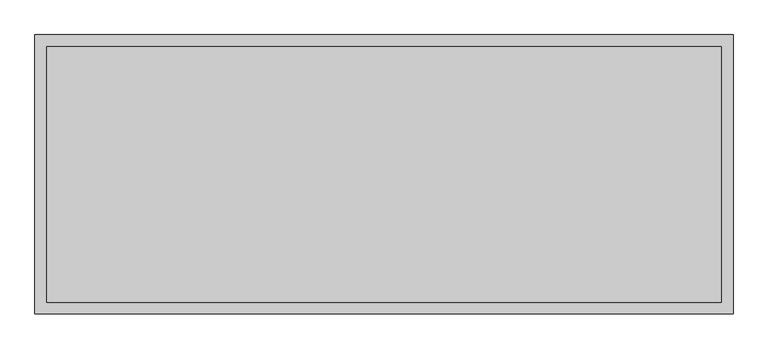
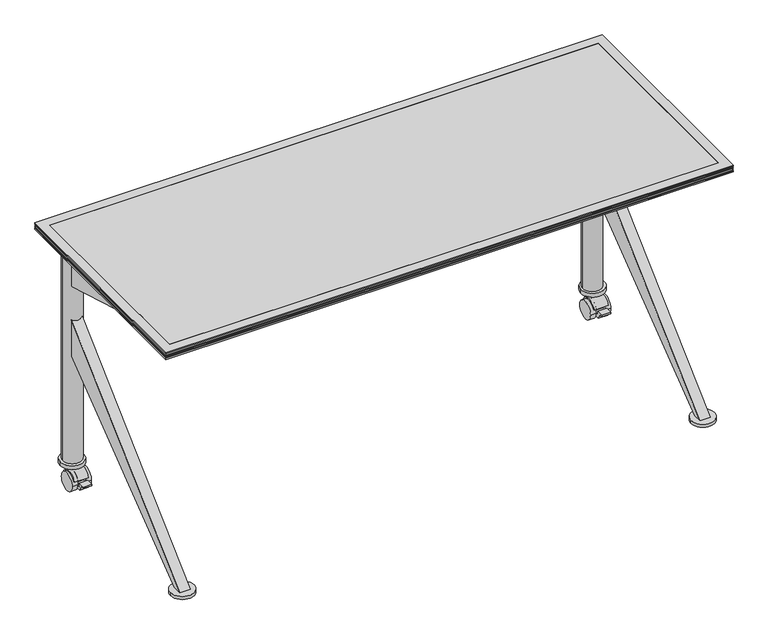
"""IFC4 building model written with IfcOpenShell, lengths in millimetres: furniture geometry, Coalesse_AM_Table_Conference_Ballet_Rectangular_KBase : Folding - 60L x 24W."""

from ifc_helpers import new_model, si_unit, point, frame, frame_2d, origin, origin_with_axes, place, context, project, spatial, polyline, circle_curve, trimmed, segment, composite_curve, outline, extrude, faceted_brep, source, transform, mapped, element, save


def furniture_9438e511(model_context):
    return source(origin(), model_context, "Body", "SolidModel", [
        extrude(outline(composite_curve([segment(trimmed(circle_curve(frame_2d((-699.4092495, -273.05)), 25.4), [point((-724.8092495, -273.05))], [point((-674.0092495, -273.05))], False, "CARTESIAN"), True, "CONTINUOUS"), segment(trimmed(circle_curve(frame_2d((-699.4092495, -273.05)), 25.4), [point((-674.0092495, -273.05))], [point((-724.8092495, -273.05))], False, "CARTESIAN"), True, "CONTINUOUS")], self_intersect=False)), origin_with_axes(), (0.0, 0.0, 1.0), 4.2936144),
        extrude(outline(composite_curve([segment(trimmed(circle_curve(frame_2d((698.6624629, -273.05)), 25.4), [point((673.2624629, -273.05))], [point((724.0624629, -273.05))], False, "CARTESIAN"), True, "CONTINUOUS"), segment(trimmed(circle_curve(frame_2d((698.6624629, -273.05)), 25.4), [point((724.0624629, -273.05))], [point((673.2624629, -273.05))], False, "CARTESIAN"), True, "CONTINUOUS")], self_intersect=False)), origin_with_axes(), (0.0, 0.0, 1.0), 4.2936144),
        extrude(outline(composite_curve([segment(polyline([(249.3604217, 14.7931869), (246.4491351, 16.4051117)]), True, "CONTINUOUS"), segment(trimmed(circle_curve(frame_2d((223.0336856, 24.9907393)), 24.9398531), [point((246.4491351, 16.4051117))], [point((200.5459564, 35.7749086))], True, "CARTESIAN"), True, "CONTINUOUS"), segment(polyline([(200.5459564, 35.7749086), (197.1203751, 36.8601197)]), True, "CONTINUOUS"), segment(trimmed(circle_curve(frame_2d((222.3646326, 26.7032164)), 27.2109394), [point((197.1203751, 36.8601197))], [point((233.9847122, 51.3082762))], False, "CARTESIAN"), True, "CONTINUOUS"), segment(trimmed(circle_curve(frame_2d((223.9211664, 25.8930561)), 27.3351124), [point((233.9847122, 51.3082762))], [point((249.3604217, 35.8956886))], False, "CARTESIAN"), True, "CONTINUOUS"), segment(trimmed(circle_curve(frame_2d((222.5258895, 25.3444377)), 28.8343721), [point((249.3604217, 35.8956886))], [point((249.3604217, 14.7931869))], False, "CARTESIAN"), True, "CONTINUOUS")], self_intersect=False)), frame((678.6279182, 0.0, 0.0), z_axis=(1.0, 0.0, 0.0), x_axis=(0.0, 1.0, 0.0)), (0.0, 0.0, 1.0), 37.985857),
        extrude(outline(composite_curve([segment(trimmed(circle_curve(frame_2d((223.0336856, 24.9907393)), 24.9398531), [point((198.0938325, 24.9907393))], [point((247.9735388, 24.9907393))], False, "CARTESIAN"), True, "CONTINUOUS"), segment(trimmed(circle_curve(frame_2d((223.0336856, 24.9907393)), 24.9398531), [point((247.9735388, 24.9907393))], [point((198.0938325, 24.9907393))], False, "CARTESIAN"), True, "CONTINUOUS")], self_intersect=False)), frame((669.4801992, 0.0, 0.0), z_axis=(1.0, 0.0, 0.0), x_axis=(0.0, 1.0, 0.0)), (0.0, 0.0, 1.0), 14.732),
        extrude(outline(composite_curve([segment(polyline([(233.9847122, 63.5225277), (249.3604217, 63.5225277), (249.3604217, 35.8956886)]), True, "CONTINUOUS"), segment(trimmed(circle_curve(frame_2d((222.5258895, 25.3444377)), 28.8343721), [point((249.3604217, 35.8956886))], [point((249.3604217, 14.7931869))], False, "CARTESIAN"), True, "CONTINUOUS"), segment(polyline([(249.3604217, 14.7931869), (235.895607, 22.2484025), (232.8197341, 16.6930892)]), True, "CONTINUOUS"), segment(trimmed(circle_curve(frame_2d((223.127305, 25.0010719)), 12.7658043), [point((232.8197341, 16.6930892))], [point((212.8624455, 17.4117096))], False, "CARTESIAN"), True, "CONTINUOUS"), segment(polyline([(212.8624455, 17.4117096), (187.093848, 17.4117096), (178.1223524, 31.7691038), (171.3969156, 31.7691038), (171.3969156, 35.1210973), (190.4469156, 35.1210973), (190.4469156, 25.0010719), (209.7362269, 25.0010719), (211.9998286, 32.1463658), (197.1203751, 36.8601197)]), True, "CONTINUOUS"), segment(trimmed(circle_curve(frame_2d((222.3646326, 26.7032164)), 27.2109394), [point((197.1203751, 36.8601197))], [point((233.9847122, 51.3082762))], False, "CARTESIAN"), True, "CONTINUOUS"), segment(polyline([(233.9847122, 51.3082762), (233.9847122, 63.5225277)]), True, "CONTINUOUS")], self_intersect=False)), frame((684.2121992, 0.0, 0.0), z_axis=(1.0, 0.0, 0.0), x_axis=(0.0, 1.0, 0.0)), (0.0, 0.0, 1.0), 24.5934543),
        extrude(outline(composite_curve([segment(trimmed(circle_curve(frame_2d((223.0336856, 24.9907393)), 24.9398531), [point((198.0938325, 24.9907393))], [point((247.9735388, 24.9907393))], False, "CARTESIAN"), True, "CONTINUOUS"), segment(trimmed(circle_curve(frame_2d((223.0336856, 24.9907393)), 24.9398531), [point((247.9735388, 24.9907393))], [point((198.0938325, 24.9907393))], False, "CARTESIAN"), True, "CONTINUOUS")], self_intersect=False)), frame((708.8056535, 0.0, 0.0), z_axis=(1.0, 0.0, 0.0), x_axis=(0.0, 1.0, 0.0)), (0.0, 0.0, 1.0), 14.732),
        extrude(outline(composite_curve([segment(trimmed(circle_curve(frame_2d((699.3954026, 240.5212308)), 31.75), [point((731.1454026, 240.5212308))], [point((667.6454026, 240.5212308))], False, "CARTESIAN"), True, "CONTINUOUS"), segment(trimmed(circle_curve(frame_2d((699.3954026, 240.5212308)), 31.75), [point((667.6454026, 240.5212308))], [point((731.1454026, 240.5212308))], False, "CARTESIAN"), True, "CONTINUOUS")], self_intersect=False)), frame((0.0, 0.0, 62.0397209), z_axis=(0.0, 0.0, 1.0), x_axis=(1.0, 0.0, 0.0)), (0.0, 0.0, 1.0), 10.7840801),
        extrude(outline(composite_curve([segment(polyline([(249.3604217, 14.7931869), (246.4491351, 16.4051117)]), True, "CONTINUOUS"), segment(trimmed(circle_curve(frame_2d((223.0336856, 24.9907393)), 24.9398531), [point((246.4491351, 16.4051117))], [point((200.5459564, 35.7749086))], True, "CARTESIAN"), True, "CONTINUOUS"), segment(polyline([(200.5459564, 35.7749086), (197.1203751, 36.8601197)]), True, "CONTINUOUS"), segment(trimmed(circle_curve(frame_2d((222.3646326, 26.7032164)), 27.2109394), [point((197.1203751, 36.8601197))], [point((233.9847122, 51.3082762))], False, "CARTESIAN"), True, "CONTINUOUS"), segment(trimmed(circle_curve(frame_2d((223.9211664, 25.8930561)), 27.3351124), [point((233.9847122, 51.3082762))], [point((249.3604217, 35.8956886))], False, "CARTESIAN"), True, "CONTINUOUS"), segment(trimmed(circle_curve(frame_2d((222.5258895, 25.3444377)), 28.8343721), [point((249.3604217, 35.8956886))], [point((249.3604217, 14.7931869))], False, "CARTESIAN"), True, "CONTINUOUS")], self_intersect=False)), frame((-718.0010267, 0.0, 0.0), z_axis=(1.0, 0.0, 0.0), x_axis=(0.0, 1.0, 0.0)), (0.0, 0.0, 1.0), 37.7563315),
        extrude(outline(composite_curve([segment(trimmed(circle_curve(frame_2d((223.0336856, 24.9907393)), 24.9398531), [point((198.0938325, 24.9907393))], [point((247.9735388, 24.9907393))], False, "CARTESIAN"), True, "CONTINUOUS"), segment(trimmed(circle_curve(frame_2d((223.0336856, 24.9907393)), 24.9398531), [point((247.9735388, 24.9907393))], [point((198.0938325, 24.9907393))], False, "CARTESIAN"), True, "CONTINUOUS")], self_intersect=False)), frame((-686.3822707, 0.0, 0.0), z_axis=(1.0, 0.0, 0.0), x_axis=(0.0, 1.0, 0.0)), (0.0, 0.0, 1.0), 14.732),
        extrude(outline(composite_curve([segment(polyline([(233.9847122, 63.5225277), (249.3604217, 63.5225277), (249.3604217, 35.8956886)]), True, "CONTINUOUS"), segment(trimmed(circle_curve(frame_2d((222.5258895, 25.3444377)), 28.8343721), [point((249.3604217, 35.8956886))], [point((249.3604217, 14.7931869))], False, "CARTESIAN"), True, "CONTINUOUS"), segment(polyline([(249.3604217, 14.7931869), (235.895607, 22.2484025), (232.8197341, 16.6930892)]), True, "CONTINUOUS"), segment(trimmed(circle_curve(frame_2d((223.127305, 25.0010719)), 12.7658043), [point((232.8197341, 16.6930892))], [point((212.8624455, 17.4117096))], False, "CARTESIAN"), True, "CONTINUOUS"), segment(polyline([(212.8624455, 17.4117096), (187.093848, 17.4117096), (178.1223524, 31.7691038), (171.3969156, 31.7691038), (171.3969156, 35.1210973), (190.4469156, 35.1210973), (190.4469156, 25.0010719), (209.7362269, 25.0010719), (211.9998286, 32.1463658), (197.1203751, 36.8601197)]), True, "CONTINUOUS"), segment(trimmed(circle_curve(frame_2d((222.3646326, 26.7032164)), 27.2109394), [point((197.1203751, 36.8601197))], [point((233.9847122, 51.3082762))], False, "CARTESIAN"), True, "CONTINUOUS"), segment(polyline([(233.9847122, 51.3082762), (233.9847122, 63.5225277)]), True, "CONTINUOUS")], self_intersect=False)), frame((-708.8056535, 0.0, 0.0), z_axis=(1.0, 0.0, 0.0), x_axis=(0.0, 1.0, 0.0)), (0.0, 0.0, 1.0), 22.4233828),
        extrude(outline(composite_curve([segment(trimmed(circle_curve(frame_2d((223.0336856, 24.9907393)), 24.9398531), [point((198.0938325, 24.9907393))], [point((247.9735388, 24.9907393))], False, "CARTESIAN"), True, "CONTINUOUS"), segment(trimmed(circle_curve(frame_2d((223.0336856, 24.9907393)), 24.9398531), [point((247.9735388, 24.9907393))], [point((198.0938325, 24.9907393))], False, "CARTESIAN"), True, "CONTINUOUS")], self_intersect=False)), frame((-723.5376535, 0.0, 0.0), z_axis=(1.0, 0.0, 0.0), x_axis=(0.0, 1.0, 0.0)), (0.0, 0.0, 1.0), 14.732),
        extrude(outline(composite_curve([segment(trimmed(circle_curve(frame_2d((-699.3954026, 240.5212308)), 31.75), [point((-731.1454026, 240.5212308))], [point((-667.6454026, 240.5212308))], False, "CARTESIAN"), True, "CONTINUOUS"), segment(trimmed(circle_curve(frame_2d((-699.3954026, 240.5212308)), 31.75), [point((-667.6454026, 240.5212308))], [point((-731.1454026, 240.5212308))], False, "CARTESIAN"), True, "CONTINUOUS")], self_intersect=False)), frame((0.0, 0.0, 62.0397209), z_axis=(0.0, 0.0, 1.0), x_axis=(1.0, 0.0, 0.0)), (0.0, 0.0, 1.0), 10.7840801),
        extrude(outline(composite_curve([segment(trimmed(circle_curve(frame_2d((-698.5003633, 241.3)), 25.4), [point((-723.9003633, 241.3))], [point((-673.1003633, 241.3))], False, "CARTESIAN"), True, "CONTINUOUS"), segment(trimmed(circle_curve(frame_2d((-698.5003633, 241.3)), 25.4), [point((-673.1003633, 241.3))], [point((-723.9003633, 241.3))], False, "CARTESIAN"), True, "CONTINUOUS")], self_intersect=False)), frame((0.0, 0.0, 72.823801), z_axis=(0.0, 0.0, 1.0), x_axis=(1.0, 0.0, 0.0)), (0.0, 0.0, 1.0), 625.6762232),
        extrude(outline(composite_curve([segment(trimmed(circle_curve(frame_2d((698.5003633, 241.3)), 25.4), [point((673.1003633, 241.3))], [point((723.9003633, 241.3))], False, "CARTESIAN"), True, "CONTINUOUS"), segment(trimmed(circle_curve(frame_2d((698.5003633, 241.3)), 25.4), [point((723.9003633, 241.3))], [point((673.1003633, 241.3))], False, "CARTESIAN"), True, "CONTINUOUS")], self_intersect=False)), frame((0.0, 0.0, 72.823801), z_axis=(0.0, 0.0, 1.0), x_axis=(1.0, 0.0, 0.0)), (0.0, 0.0, 1.0), 625.6762232),
        extrude(outline(polyline([(220.2656271, 577.7388634), (-193.674901, 698.5000242), (-161.924901, 698.5000242), (220.2656271, 641.3500242), (220.2656271, 577.7388634)])), frame((-712.8007845, 0.0, 0.0), z_axis=(1.0, 0.0, 0.0), x_axis=(0.0, 1.0, 0.0)), (0.0, 0.0, 1.0), 28.5877899),
        extrude(outline(polyline([(220.2656271, 381.0), (-261.9375951, 12.7), (-284.1624013, 12.7), (220.2656271, 482.7111245), (220.2656271, 381.0)])), frame((-712.8007845, 0.0, 0.0), z_axis=(1.0, 0.0, 0.0), x_axis=(0.0, 1.0, 0.0)), (0.0, 0.0, 1.0), 28.5877899),
        extrude(outline(polyline([(220.2656271, 577.7388634), (-193.674901, 698.5000242), (-161.924901, 698.5000242), (220.2656271, 641.3500242), (220.2656271, 577.7388634)])), frame((684.2121992, 0.0, 0.0), z_axis=(1.0, 0.0, 0.0), x_axis=(0.0, 1.0, 0.0)), (0.0, 0.0, 1.0), 28.575),
        extrude(outline(polyline([(220.2656271, 381.0), (-261.9375951, 12.7), (-284.1624013, 12.7), (220.2656271, 482.7111245), (220.2656271, 381.0)])), frame((684.2121992, 0.0, 0.0), z_axis=(1.0, 0.0, 0.0), x_axis=(0.0, 1.0, 0.0)), (0.0, 0.0, 1.0), 28.575),
        extrude(outline(composite_curve([segment(trimmed(circle_curve(frame_2d((-699.4092495, -273.05)), 31.75), [point((-731.1592495, -273.05))], [point((-667.6592495, -273.05))], False, "CARTESIAN"), True, "CONTINUOUS"), segment(trimmed(circle_curve(frame_2d((-699.4092495, -273.05)), 31.75), [point((-667.6592495, -273.05))], [point((-731.1592495, -273.05))], False, "CARTESIAN"), True, "CONTINUOUS")], self_intersect=False)), frame((0.0, 0.0, 4.2936144), z_axis=(0.0, 0.0, 1.0), x_axis=(1.0, 0.0, 0.0)), (0.0, 0.0, 1.0), 8.4063856),
        extrude(outline(composite_curve([segment(trimmed(circle_curve(frame_2d((698.6624629, -273.05)), 31.75), [point((666.9124629, -273.05))], [point((730.4124629, -273.05))], False, "CARTESIAN"), True, "CONTINUOUS"), segment(trimmed(circle_curve(frame_2d((698.6624629, -273.05)), 31.75), [point((730.4124629, -273.05))], [point((666.9124629, -273.05))], False, "CARTESIAN"), True, "CONTINUOUS")], self_intersect=False)), frame((0.0, 0.0, 4.2936144), z_axis=(0.0, 0.0, 1.0), x_axis=(1.0, 0.0, 0.0)), (0.0, 0.0, 1.0), 8.4063856),
        faceted_brep([(-762.0003633, 304.8, 704.85), (-736.6003876, 279.4000242, 698.5000242), (-736.6003876, -279.3999516, 698.5000242), (-762.0003633, -304.7999273, 704.85), (-762.0003633, 304.8, 708.0250242), (-762.0003633, -304.7999273, 708.0250242), (-758.8253755, 301.6250121, 709.6125), (-758.8253755, -301.6249394, 709.6125), (-762.0003633, 304.8, 711.1999758), (-762.0003633, -304.7999273, 711.1999758), (-758.8253755, 301.6250121, 712.7875242), (-758.8253755, -301.6249394, 712.7875242), (-762.0003633, 304.8, 714.375), (-762.0003633, -304.7999273, 714.375), (-758.8253755, 301.6250121, 715.9624758), (-758.8253755, -301.6249394, 715.9624758), (-762.0003633, 304.8, 717.5500242), (-762.0003633, -304.7999273, 717.5500242), (-758.8253755, 301.6250121, 719.1375), (-758.8253755, -301.6249394, 719.1375), (-762.0003633, 304.8, 720.7249758), (-762.0003633, -304.7999273, 720.7249758), (-762.0003633, 304.8, 723.9), (-762.0003633, -304.7999273, 723.9), (-736.6003876, 279.4000242, 723.9), (-736.6003876, -279.3999516, 723.9), (736.5998062, -279.3999516, 698.5000242), (761.999782, -304.7999273, 704.85), (761.999782, -304.7999273, 708.0250242), (758.8247941, -301.6249394, 709.6125), (761.999782, -304.7999273, 711.1999758), (758.8247941, -301.6249394, 712.7875242), (761.999782, -304.7999273, 714.375), (758.8247941, -301.6249394, 715.9624758), (761.999782, -304.7999273, 717.5500242), (758.8247941, -301.6249394, 719.1375), (761.999782, -304.7999273, 720.7249758), (761.999782, -304.7999273, 723.9), (736.5998062, -279.3999516, 723.9), (736.5998062, 279.4000242, 698.5000242), (761.999782, 304.8, 704.85), (761.999782, 304.8, 708.0250242), (758.8247941, 301.6250121, 709.6125), (761.999782, 304.8, 711.1999758), (758.8247941, 301.6250121, 712.7875242), (761.999782, 304.8, 714.375), (758.8247941, 301.6250121, 715.9624758), (761.999782, 304.8, 717.5500242), (758.8247941, 301.6250121, 719.1375), (761.999782, 304.8, 720.7249758), (761.999782, 304.8, 723.9), (736.5998062, 279.4000242, 723.9)], [[[0, 1, 2, 3]], [[4, 0, 3, 5]], [[6, 4, 5, 7]], [[8, 6, 7, 9]], [[10, 8, 9, 11]], [[12, 10, 11, 13]], [[14, 12, 13, 15]], [[16, 14, 15, 17]], [[18, 16, 17, 19]], [[20, 18, 19, 21]], [[22, 20, 21, 23]], [[1, 24, 25, 2]], [[3, 2, 26, 27]], [[5, 3, 27, 28]], [[7, 5, 28, 29]], [[9, 7, 29, 30]], [[11, 9, 30, 31]], [[13, 11, 31, 32]], [[15, 13, 32, 33]], [[17, 15, 33, 34]], [[19, 17, 34, 35]], [[21, 19, 35, 36]], [[23, 21, 36, 37]], [[2, 25, 38, 26]], [[27, 26, 39, 40]], [[28, 27, 40, 41]], [[29, 28, 41, 42]], [[30, 29, 42, 43]], [[31, 30, 43, 44]], [[32, 31, 44, 45]], [[33, 32, 45, 46]], [[34, 33, 46, 47]], [[35, 34, 47, 48]], [[36, 35, 48, 49]], [[37, 36, 49, 50]], [[26, 38, 51, 39]], [[40, 39, 1, 0]], [[41, 40, 0, 4]], [[42, 41, 4, 6]], [[43, 42, 6, 8]], [[44, 43, 8, 10]], [[45, 44, 10, 12]], [[46, 45, 12, 14]], [[47, 46, 14, 16]], [[48, 47, 16, 18]], [[49, 48, 18, 20]], [[50, 49, 20, 22]], [[23, 37, 50, 22], [24, 51, 38, 25]], [[39, 51, 24, 1]]]),
        extrude(outline(polyline([(736.5998062, 279.4000242), (736.5998062, -279.3999516), (-736.6003876, -279.3999516), (-736.6003876, 279.4000242), (736.5998062, 279.4000242)])), frame((0.0, 0.0, 704.85), z_axis=(0.0, 0.0, 1.0), x_axis=(1.0, 0.0, 0.0)), (0.0, 0.0, 1.0), 19.05),
    ])


if __name__ == "__main__":
    model = new_model("IFC4")
    model_context = context("Model", 3, world=origin())
    ifc_project = project(units=[si_unit("LENGTHUNIT", "METRE", prefix="MILLI")], contexts=[model_context])
    site = spatial("IfcSite", under=ifc_project)
    building = spatial("IfcBuilding", under=site)
    placement = place(None, origin())
    furniture_shape = furniture_9438e511(model_context)
    element("IfcFurniture", 1, ObjectType="Coalesse_AM_Table_Conference_Ballet_Rectangular_KBase : Folding - 60L x 24W", at=placement, inside=building, context=model_context, shape_type="MappedRepresentation", body=[
        mapped(furniture_shape, transform((0.0, 0.0, 0.0), x_axis=(1.0, 0.0, 0.0), y_axis=(0.0, 1.0, 0.0), z_axis=(0.0, 0.0, 1.0))),
    ])
    save(model, "model.ifc")
